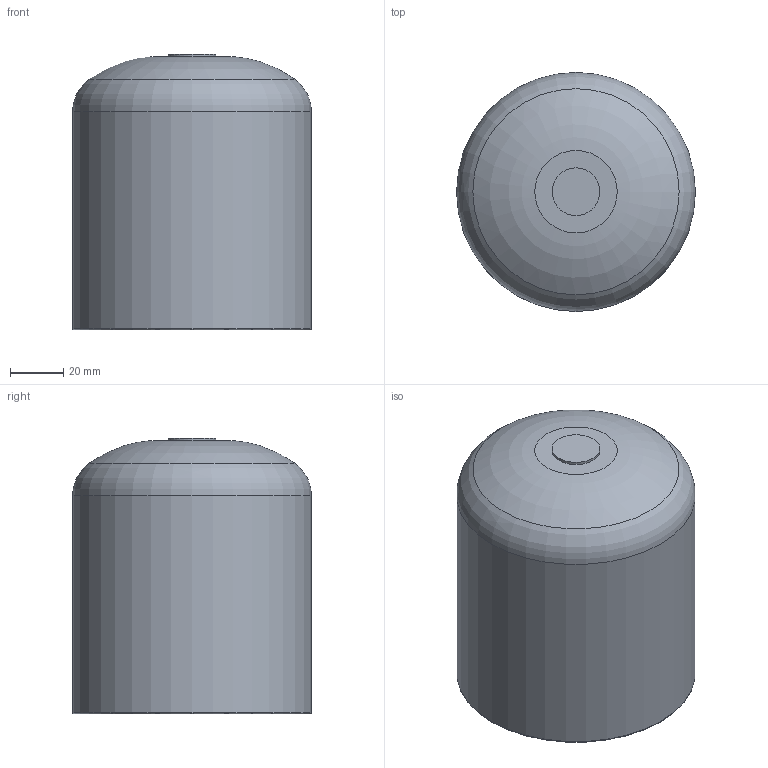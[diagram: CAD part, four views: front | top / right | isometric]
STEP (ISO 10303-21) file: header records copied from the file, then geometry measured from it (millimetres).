
FILE_DESCRIPTION(/* description */ ('Unknown'),/* implementation_level */ '2;1');
FILE_NAME(/* name */ 'CAP090G',/* time_stamp */ '2022-04-05T11:53:09+02:00',/* author */ ('Unknown'),/* organization */ ('Unknown'),/* preprocessor_version */ 'ST-DEVELOPER v18.1',/* originating_system */ 'Solid Edge',/* authorisation */ 'Unknown');
FILE_SCHEMA (('AUTOMOTIVE_DESIGN {1 0 10303 214 3 1 1}'));
Length unit declared in the file: millimetre
Products named in the file (1): CAP090G
Bounding box: 90 x 90 x 104 mm (x, y, z)
Volume: 293778.8 mm3; surface area: 58704.4 mm2
Topology: 1 solids, 1 shells, 155 faces, 358 edges, 200 vertices
Faces by surface type: bspline 108, torus 27, plane 9, sphere 7, cylinder 3, cone 1
Full cylindrical faces by diameter (mm): 18 x1, 69.8 x1, 90 x1
Entity records: 5670 total; most frequent: CARTESIAN_POINT 2970, ORIENTED_EDGE 678, DIRECTION 390, EDGE_CURVE 339, VERTEX_POINT 195, AXIS2_PLACEMENT_3D 195, B_SPLINE_CURVE_WITH_KNOTS 192, EDGE_LOOP 164
